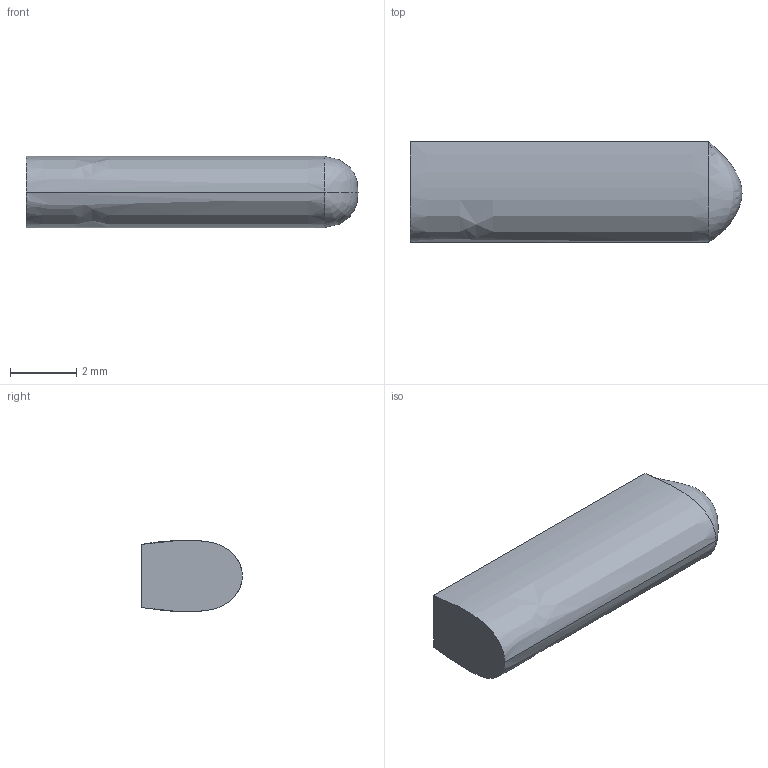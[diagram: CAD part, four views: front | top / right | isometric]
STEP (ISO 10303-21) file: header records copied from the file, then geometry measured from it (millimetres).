
FILE_DESCRIPTION((''),'1');
FILE_NAME('ELEK-ST10-16E','2001-03-29T',('rgoetz'),(''),'PRO/ENGINEER BY PARAMETRIC TECHNOLOGY CORPORATION, 2000350','PRO/ENGINEER BY PARAMETRIC TECHNOLOGY CORPORATION, 2000350','');
FILE_SCHEMA(('CONFIG_CONTROL_DESIGN'));
Length unit declared in the file: millimetre
Products named in the file (1): ELEK-ST10-16E
Bounding box: 10 x 3.03 x 2.16 mm (x, y, z)
Volume: 55.2 mm3; surface area: 96.6 mm2
Topology: 1 solids, 1 shells, 6 faces, 13 edges, 7 vertices
Faces by surface type: plane 2, extrusion 2, bspline 2
Entity records: 534 total; most frequent: CARTESIAN_POINT 393, ORIENTED_EDGE 22, EDGE_CURVE 11, DIRECTION 10, B_SPLINE_CURVE_WITH_KNOTS 9, VERTEX_POINT 7, VECTOR 6, EDGE_LOOP 6
